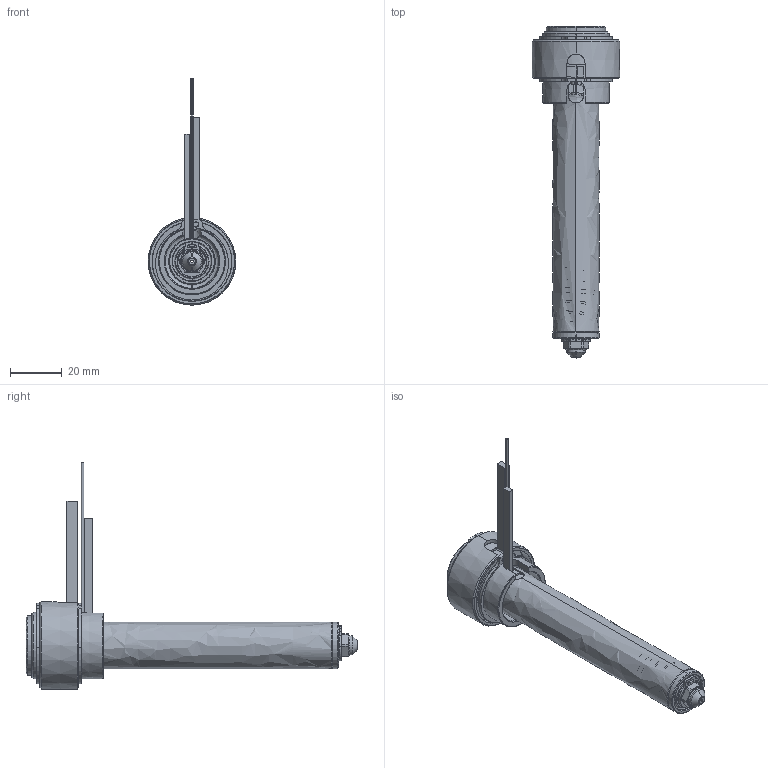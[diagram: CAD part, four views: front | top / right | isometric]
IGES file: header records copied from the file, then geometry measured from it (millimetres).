
Start section: SolidWorks IGES file using analytic representation for surfaces
Global section: file name: C:\Documents and Settings\ws-20\Desktop\TEM\UGER2504-M-A-0 [Øb-0.90 ØC-4.0].IGS; native system: SolidWorks 2012; preprocessor: SolidWorks 2012; author: ws-20; date: 120405.102025; units: millimetre
Bounding box: 34 x 128.9 x 87.9 mm (x, y, z)
Surface area: 21018.2 mm2 (no closed solid volume)
Topology: 0 solids, 0 shells, 187 faces, 2411 edges, 2411 vertices
Faces by surface type: revolution 117, bspline 70
